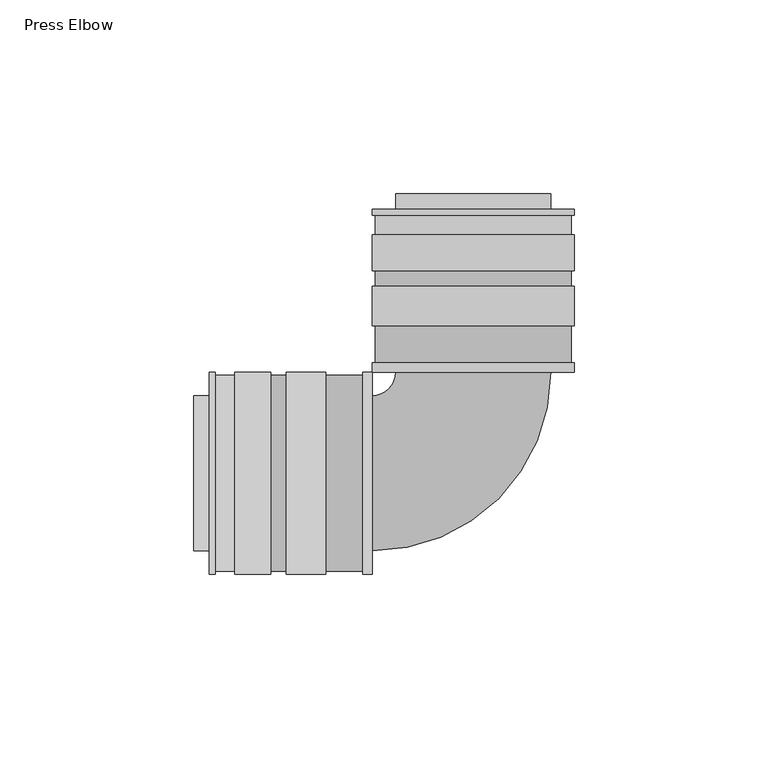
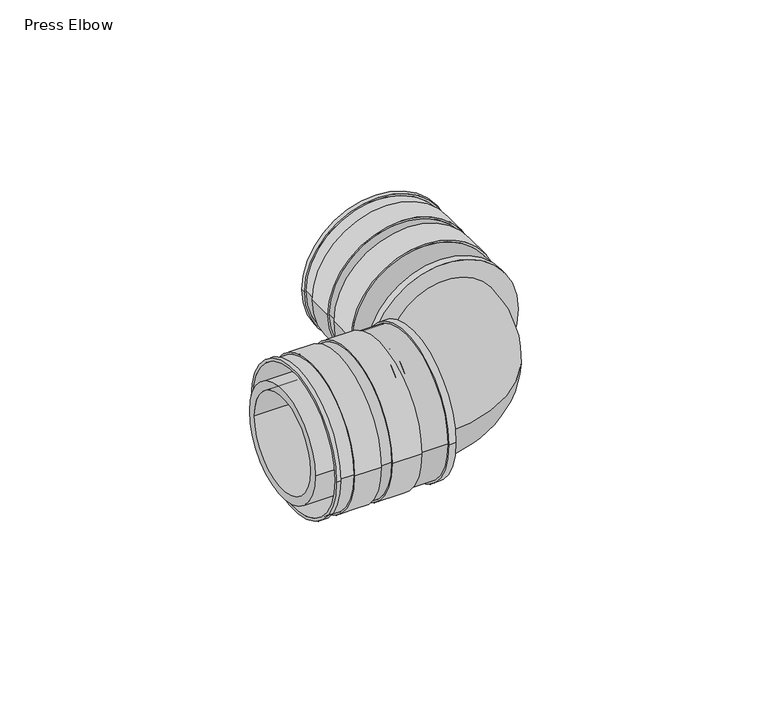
"""IFC4 building model written with IfcOpenShell, lengths in millimetres: pipe fitting geometry, Press Elbow : Superpipe Press Elbow."""

from ifc_helpers import new_model, si_unit, point, frame, origin, origin_2d, place, context, project, spatial, polyline, circle_curve, ellipse_curve, trimmed, segment, composite_curve, outline, extrude, source, transform, mapped, element, save
from ifc_brep_helpers import plane_surface, cylinder_surface, revolved_surface, advanced_brep


def press_elbow_9b0d0ad5(model_context):
    return source(origin(), model_context, "Body", "SolidModel", [
        advanced_brep(
        [(-25.3, 28.5, 0.0), (25.3, 28.5, 0.0), (25.0, 28.5, 0.0), (-25.0, 28.5, 0.0), (26.0, 68.0, 0.0), (-26.0, 68.0, 0.0), (25.0, 68.0, 0.0), (-25.0, 68.0, 0.0), (26.0, 66.5, 0.0), (-26.0, 66.5, 0.0), (26.0, 38.0, 0.0), (-26.0, 38.0, 0.0), (-26.0, 48.25, 0.0), (26.0, 48.25, 0.0), (26.0, 52.25, 0.0), (-26.0, 52.25, 0.0), (-26.0, 61.5, 0.0), (26.0, 61.5, 0.0), (25.3, 38.0, 0.0), (-25.3, 38.0, 0.0), (25.3, 48.25, 0.0), (-25.3, 48.25, 0.0), (25.3, 52.25, 0.0), (-25.3, 52.25, 0.0), (-25.3, 66.5, 0.0), (25.3, 66.5, 0.0), (-25.3, 61.5, 0.0), (25.3, 61.5, 0.0)],
        [
            (0, 1, circle_curve(frame((0.0, 28.5, 0.0), z_axis=(0.0, -1.0, 0.0), x_axis=(-1.0, 0.0, 0.0)), 25.3)),
            (1, 0, circle_curve(frame((0.0, 28.5, 0.0), z_axis=(0.0, -1.0, 0.0), x_axis=(-1.0, 0.0, 0.0)), 25.3)),
            (2, 3, circle_curve(frame((0.0, 28.5, 0.0), z_axis=(0.0, 1.0, 0.0), x_axis=(-1.0, 0.0, 0.0)), 25.0)),
            (3, 2, circle_curve(frame((0.0, 28.5, 0.0), z_axis=(0.0, 1.0, 0.0), x_axis=(-1.0, 0.0, 0.0)), 25.0)),
            (4, 5, circle_curve(frame((0.0, 68.0, 0.0), z_axis=(0.0, 1.0, 0.0), x_axis=(-1.0, 0.0, 0.0)), 26.0)),
            (5, 4, circle_curve(frame((0.0, 68.0, 0.0), z_axis=(0.0, 1.0, 0.0), x_axis=(-1.0, 0.0, 0.0)), 26.0)),
            (6, 7, circle_curve(frame((0.0, 68.0, 0.0), z_axis=(0.0, -1.0, 0.0), x_axis=(-1.0, 0.0, 0.0)), 25.0)),
            (7, 6, circle_curve(frame((0.0, 68.0, 0.0), z_axis=(0.0, -1.0, 0.0), x_axis=(-1.0, 0.0, 0.0)), 25.0)),
            (4, 8),
            (8, 9, circle_curve(frame((0.0, 66.5, 0.0), z_axis=(0.0, 1.0, 0.0), x_axis=(-1.0, 0.0, 0.0)), 26.0)),
            (9, 5),
            (10, 11, circle_curve(frame((0.0, 38.0, 0.0), z_axis=(0.0, 1.0, 0.0), x_axis=(-1.0, 0.0, 0.0)), 26.0)),
            (11, 12),
            (12, 13, circle_curve(frame((0.0, 48.25, 0.0), z_axis=(0.0, -1.0, 0.0), x_axis=(-1.0, 0.0, 0.0)), 26.0)),
            (13, 10),
            (14, 15, circle_curve(frame((0.0, 52.25, 0.0), z_axis=(0.0, 1.0, 0.0), x_axis=(-1.0, 0.0, 0.0)), 26.0)),
            (15, 16),
            (16, 17, circle_curve(frame((0.0, 61.5, 0.0), z_axis=(0.0, -1.0, 0.0), x_axis=(-1.0, 0.0, 0.0)), 26.0)),
            (17, 14),
            (9, 8, circle_curve(frame((0.0, 66.5, 0.0), z_axis=(0.0, 1.0, 0.0), x_axis=(-1.0, 0.0, 0.0)), 26.0)),
            (11, 10, circle_curve(frame((0.0, 38.0, 0.0), z_axis=(0.0, 1.0, 0.0), x_axis=(-1.0, 0.0, 0.0)), 26.0)),
            (13, 12, circle_curve(frame((0.0, 48.25, 0.0), z_axis=(0.0, -1.0, 0.0), x_axis=(-1.0, 0.0, 0.0)), 26.0)),
            (15, 14, circle_curve(frame((0.0, 52.25, 0.0), z_axis=(0.0, 1.0, 0.0), x_axis=(-1.0, 0.0, 0.0)), 26.0)),
            (17, 16, circle_curve(frame((0.0, 61.5, 0.0), z_axis=(0.0, -1.0, 0.0), x_axis=(-1.0, 0.0, 0.0)), 26.0)),
            (3, 7),
            (6, 2),
            (18, 19, circle_curve(frame((0.0, 38.0, 0.0), z_axis=(0.0, 1.0, 0.0), x_axis=(-1.0, 0.0, 0.0)), 25.3)),
            (19, 18, circle_curve(frame((0.0, 38.0, 0.0), z_axis=(0.0, 1.0, 0.0), x_axis=(-1.0, 0.0, 0.0)), 25.3)),
            (18, 1),
            (0, 19),
            (20, 21, circle_curve(frame((0.0, 48.25, 0.0), z_axis=(0.0, -1.0, 0.0), x_axis=(-1.0, 0.0, 0.0)), 25.3)),
            (21, 20, circle_curve(frame((0.0, 48.25, 0.0), z_axis=(0.0, -1.0, 0.0), x_axis=(-1.0, 0.0, 0.0)), 25.3)),
            (22, 23, circle_curve(frame((0.0, 52.25, 0.0), z_axis=(0.0, 1.0, 0.0), x_axis=(-1.0, 0.0, 0.0)), 25.3)),
            (23, 22, circle_curve(frame((0.0, 52.25, 0.0), z_axis=(0.0, 1.0, 0.0), x_axis=(-1.0, 0.0, 0.0)), 25.3)),
            (21, 23),
            (22, 20),
            (24, 25, circle_curve(frame((0.0, 66.5, 0.0), z_axis=(0.0, 1.0, 0.0), x_axis=(1.0, 0.0, 0.0)), 25.3)),
            (25, 24, circle_curve(frame((0.0, 66.5, 0.0), z_axis=(0.0, 1.0, 0.0), x_axis=(1.0, 0.0, 0.0)), 25.3)),
            (26, 27, circle_curve(frame((0.0, 61.5, 0.0), z_axis=(0.0, -1.0, 0.0), x_axis=(1.0, 0.0, 0.0)), 25.3)),
            (27, 26, circle_curve(frame((0.0, 61.5, 0.0), z_axis=(0.0, -1.0, 0.0), x_axis=(1.0, 0.0, 0.0)), 25.3)),
            (25, 27),
            (26, 24),
        ],
        [
            plane_surface(frame((0.0, 28.5, 0.0), z_axis=(0.0, -1.0, 0.0), x_axis=(0.0, 0.0, 1.0))),
            plane_surface(frame((0.0, 68.0, 0.0), z_axis=(0.0, 1.0, 0.0), x_axis=(0.0, 0.0, 1.0))),
            cylinder_surface(frame((0.0, 28.5, 0.0), z_axis=(0.0, -1.0, 0.0), x_axis=(-1.0, 0.0, 0.0)), 26.0),
            revolved_surface(polyline([(-25.0, 68.0, 0.0), (-25.0, 28.5, 0.0)]), (0.0, 28.5, 0.0), (0.0, 1.0, 0.0)),
            plane_surface(frame((0.0, 38.0, 0.0), z_axis=(0.0, -1.0, 0.0), x_axis=(0.0, 0.0, 1.0))),
            cylinder_surface(frame((0.0, 28.5, 0.0), z_axis=(0.0, 1.0, 0.0), x_axis=(-1.0, 0.0, 0.0)), 25.3),
            plane_surface(frame((0.0, 48.25, 0.0), z_axis=(0.0, 1.0, 0.0), x_axis=(0.0, 0.0, 1.0))),
            plane_surface(frame((0.0, 52.25, 0.0), z_axis=(0.0, -1.0, 0.0), x_axis=(0.0, 0.0, 1.0))),
            cylinder_surface(frame((0.0, 48.25, 0.0), z_axis=(0.0, 1.0, 0.0), x_axis=(-1.0, 0.0, 0.0)), 25.3),
            plane_surface(frame((0.0, 66.5, 0.0), z_axis=(0.0, -1.0, 0.0), x_axis=(0.0, 0.0, 1.0))),
            plane_surface(frame((0.0, 61.5, 0.0), z_axis=(0.0, 1.0, 0.0), x_axis=(0.0, 0.0, 1.0))),
            cylinder_surface(frame((0.0, 66.5, 0.0), z_axis=(0.0, -1.0, 0.0), x_axis=(1.0, 0.0, 0.0)), 25.3),
        ],
        [
            (0, [[1, 2], [3, 4]]),
            (1, [[5, 6], [7, 8]]),
            (2, [[-5, 9, 10, 11]]),
            (2, [[12, 13, 14, 15]]),
            (2, [[16, 17, 18, 19]]),
            (2, [[-6, -11, 20, -9]]),
            (2, [[21, -15, 22, -13]]),
            (2, [[23, -19, 24, -17]]),
            (3, [[-4, 25, -7, 26]]),
            (3, [[-3, -26, -8, -25]]),
            (4, [[-12, -21], [27, 28]]),
            (5, [[-27, 29, -1, 30]]),
            (5, [[-28, -30, -2, -29]]),
            (6, [[-14, -22], [31, 32]]),
            (7, [[-16, -23], [33, 34]]),
            (8, [[-32, 35, -33, 36]]),
            (8, [[-31, -36, -34, -35]]),
            (9, [[-10, -20], [37, 38]]),
            (10, [[-18, -24], [39, 40]]),
            (11, [[-38, 41, -39, 42]]),
            (11, [[-37, -42, -40, -41]]),
        ],
    ),
        advanced_brep(
        [(-28.5, -25.3, 0.0), (-28.5, 25.3, 0.0), (-28.5, 25.0, 0.0), (-28.5, -25.0, 0.0), (-68.0, 26.0, 0.0), (-68.0, -26.0, 0.0), (-68.0, 25.0, 0.0), (-68.0, -25.0, 0.0), (-66.5, 26.0, 0.0), (-66.5, -26.0, 0.0), (-48.25, -26.0, 0.0), (-48.25, 26.0, 0.0), (-38.0, 26.0, 0.0), (-38.0, -26.0, 0.0), (-52.25, 26.0, 0.0), (-52.25, -26.0, 0.0), (-61.5, -26.0, 0.0), (-61.5, 26.0, 0.0), (-48.25, 25.3, 0.0), (-48.25, -25.3, 0.0), (-52.25, 25.3, 0.0), (-52.25, -25.3, 0.0), (-66.5, -25.3, 0.0), (-66.5, 25.3, 0.0), (-61.5, -25.3, 0.0), (-61.5, 25.3, 0.0), (-38.0, 25.3, 0.0), (-38.0, -25.3, 0.0)],
        [
            (0, 1, circle_curve(frame((-28.5, 0.0, 0.0), z_axis=(1.0, 0.0, 0.0), x_axis=(0.0, -1.0, 0.0)), 25.3)),
            (1, 0, circle_curve(frame((-28.5, 0.0, 0.0), z_axis=(1.0, 0.0, 0.0), x_axis=(0.0, -1.0, 0.0)), 25.3)),
            (2, 3, circle_curve(frame((-28.5, 0.0, 0.0), z_axis=(-1.0, 0.0, 0.0), x_axis=(0.0, -1.0, 0.0)), 25.0)),
            (3, 2, circle_curve(frame((-28.5, 0.0, 0.0), z_axis=(-1.0, 0.0, 0.0), x_axis=(0.0, -1.0, 0.0)), 25.0)),
            (4, 5, circle_curve(frame((-68.0, 0.0, 0.0), z_axis=(-1.0, 0.0, 0.0), x_axis=(0.0, -1.0, 0.0)), 26.0)),
            (5, 4, circle_curve(frame((-68.0, 0.0, 0.0), z_axis=(-1.0, 0.0, 0.0), x_axis=(0.0, -1.0, 0.0)), 26.0)),
            (6, 7, circle_curve(frame((-68.0, 0.0, 0.0), z_axis=(1.0, 0.0, 0.0), x_axis=(0.0, -1.0, 0.0)), 25.0)),
            (7, 6, circle_curve(frame((-68.0, 0.0, 0.0), z_axis=(1.0, 0.0, 0.0), x_axis=(0.0, -1.0, 0.0)), 25.0)),
            (3, 7),
            (6, 2),
            (4, 8),
            (8, 9, circle_curve(frame((-66.5, 0.0, 0.0), z_axis=(-1.0, 0.0, 0.0), x_axis=(0.0, -1.0, 0.0)), 26.0)),
            (9, 5),
            (10, 11, circle_curve(frame((-48.25, 0.0, 0.0), z_axis=(1.0, 0.0, 0.0), x_axis=(0.0, -1.0, 0.0)), 26.0)),
            (11, 12),
            (12, 13, circle_curve(frame((-38.0, 0.0, 0.0), z_axis=(-1.0, 0.0, 0.0), x_axis=(0.0, -1.0, 0.0)), 26.0)),
            (13, 10),
            (14, 15, circle_curve(frame((-52.25, 0.0, 0.0), z_axis=(-1.0, 0.0, 0.0), x_axis=(0.0, -1.0, 0.0)), 26.0)),
            (15, 16),
            (16, 17, circle_curve(frame((-61.5, 0.0, 0.0), z_axis=(1.0, 0.0, 0.0), x_axis=(0.0, -1.0, 0.0)), 26.0)),
            (17, 14),
            (9, 8, circle_curve(frame((-66.5, 0.0, 0.0), z_axis=(-1.0, 0.0, 0.0), x_axis=(0.0, -1.0, 0.0)), 26.0)),
            (11, 10, circle_curve(frame((-48.25, 0.0, 0.0), z_axis=(1.0, 0.0, 0.0), x_axis=(0.0, -1.0, 0.0)), 26.0)),
            (13, 12, circle_curve(frame((-38.0, 0.0, 0.0), z_axis=(-1.0, 0.0, 0.0), x_axis=(0.0, -1.0, 0.0)), 26.0)),
            (15, 14, circle_curve(frame((-52.25, 0.0, 0.0), z_axis=(-1.0, 0.0, 0.0), x_axis=(0.0, -1.0, 0.0)), 26.0)),
            (17, 16, circle_curve(frame((-61.5, 0.0, 0.0), z_axis=(1.0, 0.0, 0.0), x_axis=(0.0, -1.0, 0.0)), 26.0)),
            (18, 19, circle_curve(frame((-48.25, 0.0, 0.0), z_axis=(1.0, 0.0, 0.0), x_axis=(0.0, -1.0, 0.0)), 25.3)),
            (19, 18, circle_curve(frame((-48.25, 0.0, 0.0), z_axis=(1.0, 0.0, 0.0), x_axis=(0.0, -1.0, 0.0)), 25.3)),
            (20, 21, circle_curve(frame((-52.25, 0.0, 0.0), z_axis=(-1.0, 0.0, 0.0), x_axis=(0.0, -1.0, 0.0)), 25.3)),
            (21, 20, circle_curve(frame((-52.25, 0.0, 0.0), z_axis=(-1.0, 0.0, 0.0), x_axis=(0.0, -1.0, 0.0)), 25.3)),
            (19, 21),
            (20, 18),
            (22, 23, circle_curve(frame((-66.5, 0.0, 0.0), z_axis=(-1.0, 0.0, 0.0), x_axis=(0.0, 1.0, 0.0)), 25.3)),
            (23, 22, circle_curve(frame((-66.5, 0.0, 0.0), z_axis=(-1.0, 0.0, 0.0), x_axis=(0.0, 1.0, 0.0)), 25.3)),
            (24, 25, circle_curve(frame((-61.5, 0.0, 0.0), z_axis=(1.0, 0.0, 0.0), x_axis=(0.0, 1.0, 0.0)), 25.3)),
            (25, 24, circle_curve(frame((-61.5, 0.0, 0.0), z_axis=(1.0, 0.0, 0.0), x_axis=(0.0, 1.0, 0.0)), 25.3)),
            (23, 25),
            (24, 22),
            (26, 27, circle_curve(frame((-38.0, 0.0, 0.0), z_axis=(-1.0, 0.0, 0.0), x_axis=(0.0, -1.0, 0.0)), 25.3)),
            (27, 26, circle_curve(frame((-38.0, 0.0, 0.0), z_axis=(-1.0, 0.0, 0.0), x_axis=(0.0, -1.0, 0.0)), 25.3)),
            (26, 1),
            (0, 27),
        ],
        [
            plane_surface(frame((-28.5, 0.0, 0.0), z_axis=(1.0, 0.0, 0.0), x_axis=(0.0, 0.0, 1.0))),
            plane_surface(frame((-68.0, 0.0, 0.0), z_axis=(-1.0, 0.0, 0.0), x_axis=(0.0, 0.0, 1.0))),
            revolved_surface(polyline([(-68.0, -25.0, 0.0), (-28.5, -25.0, 0.0)]), (-28.5, 0.0, 0.0), (-1.0, 0.0, 0.0)),
            cylinder_surface(frame((-28.5, 0.0, 0.0), z_axis=(1.0, 0.0, 0.0), x_axis=(0.0, -1.0, 0.0)), 26.0),
            plane_surface(frame((-48.25, 0.0, 0.0), z_axis=(-1.0, 0.0, 0.0), x_axis=(0.0, 0.0, 1.0))),
            plane_surface(frame((-52.25, 0.0, 0.0), z_axis=(1.0, 0.0, 0.0), x_axis=(0.0, 0.0, 1.0))),
            cylinder_surface(frame((-48.25, 0.0, 0.0), z_axis=(-1.0, 0.0, 0.0), x_axis=(0.0, -1.0, 0.0)), 25.3),
            plane_surface(frame((-66.5, 0.0, 0.0), z_axis=(1.0, 0.0, 0.0), x_axis=(0.0, 0.0, 1.0))),
            plane_surface(frame((-61.5, 0.0, 0.0), z_axis=(-1.0, 0.0, 0.0), x_axis=(0.0, 0.0, 1.0))),
            cylinder_surface(frame((-66.5, 0.0, 0.0), z_axis=(1.0, 0.0, 0.0), x_axis=(0.0, 1.0, 0.0)), 25.3),
            plane_surface(frame((-38.0, 0.0, 0.0), z_axis=(1.0, 0.0, 0.0), x_axis=(0.0, 0.0, 1.0))),
            cylinder_surface(frame((-28.5, 0.0, 0.0), z_axis=(-1.0, 0.0, 0.0), x_axis=(0.0, -1.0, 0.0)), 25.3),
        ],
        [
            (0, [[1, 2], [3, 4]]),
            (1, [[5, 6], [7, 8]]),
            (2, [[-4, 9, -7, 10]]),
            (2, [[-3, -10, -8, -9]]),
            (3, [[-5, 11, 12, 13]]),
            (3, [[14, 15, 16, 17]]),
            (3, [[18, 19, 20, 21]]),
            (3, [[-6, -13, 22, -11]]),
            (3, [[23, -17, 24, -15]]),
            (3, [[25, -21, 26, -19]]),
            (4, [[-14, -23], [27, 28]]),
            (5, [[-18, -25], [29, 30]]),
            (6, [[-28, 31, -29, 32]]),
            (6, [[-27, -32, -30, -31]]),
            (7, [[-12, -22], [33, 34]]),
            (8, [[-20, -26], [35, 36]]),
            (9, [[-34, 37, -35, 38]]),
            (9, [[-33, -38, -36, -37]]),
            (10, [[-16, -24], [39, 40]]),
            (11, [[-39, 41, -1, 42]]),
            (11, [[-40, -42, -2, -41]]),
        ],
    ),
        extrude(outline(composite_curve([segment(trimmed(circle_curve(origin_2d(), 20.0), [point((0.0, 20.0))], [point((0.0, -20.0))], False, "CARTESIAN"), True, "CONTINUOUS"), segment(trimmed(circle_curve(origin_2d(), 20.0), [point((0.0, -20.0))], [point((0.0, 20.0))], False, "CARTESIAN"), True, "CONTINUOUS")], self_intersect=False), holes=[composite_curve([segment(trimmed(circle_curve(origin_2d(), 17.0), [point((0.0, 17.0))], [point((0.0, -17.0))], True, "CARTESIAN"), True, "CONTINUOUS"), segment(trimmed(circle_curve(origin_2d(), 17.0), [point((0.0, -17.0))], [point((0.0, 17.0))], True, "CARTESIAN"), True, "CONTINUOUS")], self_intersect=False)]), frame((0.0, 28.5, 0.0), z_axis=(0.0, 1.0, 0.0), x_axis=(0.0, 0.0, 1.0)), (0.0, 0.0, 1.0), 43.5),
        extrude(outline(composite_curve([segment(trimmed(circle_curve(origin_2d(), 26.0), [point((0.0, 26.0))], [point((0.0, -26.0))], False, "CARTESIAN"), True, "CONTINUOUS"), segment(trimmed(circle_curve(origin_2d(), 26.0), [point((0.0, -26.0))], [point((0.0, 26.0))], False, "CARTESIAN"), True, "CONTINUOUS")], self_intersect=False), holes=[composite_curve([segment(trimmed(circle_curve(origin_2d(), 17.0), [point((0.0, 17.0))], [point((0.0, -17.0))], True, "CARTESIAN"), True, "CONTINUOUS"), segment(trimmed(circle_curve(origin_2d(), 17.0), [point((0.0, -17.0))], [point((0.0, 17.0))], True, "CARTESIAN"), True, "CONTINUOUS")], self_intersect=False)]), frame((0.0, 26.0, 0.0), z_axis=(0.0, 1.0, 0.0), x_axis=(0.0, 0.0, 1.0)), (0.0, 0.0, 1.0), 2.5),
        extrude(outline(composite_curve([segment(trimmed(circle_curve(origin_2d(), 26.0), [point((26.0, 0.0))], [point((-26.0, 0.0))], False, "CARTESIAN"), True, "CONTINUOUS"), segment(trimmed(circle_curve(origin_2d(), 26.0), [point((-26.0, 0.0))], [point((26.0, 0.0))], False, "CARTESIAN"), True, "CONTINUOUS")], self_intersect=False), holes=[composite_curve([segment(trimmed(circle_curve(origin_2d(), 17.0), [point((17.0, 0.0))], [point((-17.0, 0.0))], True, "CARTESIAN"), True, "CONTINUOUS"), segment(trimmed(circle_curve(origin_2d(), 17.0), [point((-17.0, 0.0))], [point((17.0, 0.0))], True, "CARTESIAN"), True, "CONTINUOUS")], self_intersect=False)]), frame((-28.5, 0.0, 0.0), z_axis=(1.0, 0.0, 0.0), x_axis=(0.0, 1.0, 0.0)), (0.0, 0.0, 1.0), 2.5),
        extrude(outline(composite_curve([segment(trimmed(circle_curve(origin_2d(), 20.0), [point((20.0, 0.0))], [point((-20.0, 0.0))], False, "CARTESIAN"), True, "CONTINUOUS"), segment(trimmed(circle_curve(origin_2d(), 20.0), [point((-20.0, 0.0))], [point((20.0, 0.0))], False, "CARTESIAN"), True, "CONTINUOUS")], self_intersect=False), holes=[composite_curve([segment(trimmed(circle_curve(origin_2d(), 17.0), [point((17.0, 0.0))], [point((-17.0, 0.0))], True, "CARTESIAN"), True, "CONTINUOUS"), segment(trimmed(circle_curve(origin_2d(), 17.0), [point((-17.0, 0.0))], [point((17.0, 0.0))], True, "CARTESIAN"), True, "CONTINUOUS")], self_intersect=False)]), frame((-72.0, 0.0, 0.0), z_axis=(1.0, 0.0, 0.0), x_axis=(0.0, 1.0, 0.0)), (0.0, 0.0, 1.0), 43.5),
        advanced_brep(
        [(-26.0, -17.0, 0.0), (-26.0, 17.0, 0.0), (17.0, 26.0, 0.0), (-17.0, 26.0, 0.0)],
        [
            (0, 1, circle_curve(frame((-26.0, 0.0, 0.0), z_axis=(-1.0, 0.0, 0.0), x_axis=(0.0, 1.0, 0.0)), 17.0)),
            (1, 0, circle_curve(frame((-26.0, 0.0, 0.0), z_axis=(-1.0, 0.0, 0.0), x_axis=(0.0, 1.0, 0.0)), 17.0)),
            (2, 3, circle_curve(frame((0.0, 26.0, 0.0), z_axis=(0.0, 1.0, 0.0), x_axis=(-1.0, 0.0, 0.0)), 17.0)),
            (3, 2, circle_curve(frame((0.0, 26.0, 0.0), z_axis=(0.0, 1.0, 0.0), x_axis=(-1.0, 0.0, 0.0)), 17.0)),
            (3, 1, circle_curve(frame((-26.0, 26.0, 0.0), z_axis=(0.0, 0.0, -1.0), x_axis=(0.0, -1.0, 0.0)), 9.0)),
            (0, 2, circle_curve(frame((-26.0, 26.0, 0.0), z_axis=(0.0, 0.0, 1.0), x_axis=(0.0, -1.0, 0.0)), 43.0)),
        ],
        [
            plane_surface(frame((-26.0, 0.0, 0.0), z_axis=(-1.0, 0.0, 0.0), x_axis=(0.0, 0.0, 1.0))),
            plane_surface(frame((0.0, 26.0, 0.0), z_axis=(0.0, 1.0, 0.0), x_axis=(0.0, 0.0, 1.0))),
            revolved_surface(trimmed(ellipse_curve(frame((-26.0, 0.0, 0.0), z_axis=(-1.0, 0.0, 0.0), x_axis=(0.0, 1.0, 0.0)), 17.0, 17.0), [point((-26.0, -17.0, 0.0))], [point((-26.0, 17.0, 0.0))], True, "CARTESIAN"), (-26.0, 26.0, 0.0), (0.0, 0.0, 1.0)),
            revolved_surface(trimmed(ellipse_curve(frame((-26.0, 0.0, 0.0), z_axis=(-1.0, 0.0, 0.0), x_axis=(0.0, 1.0, 0.0)), 17.0, 17.0), [point((-26.0, 17.0, 0.0))], [point((-26.0, -17.0, 0.0))], True, "CARTESIAN"), (-26.0, 26.0, 0.0), (0.0, 0.0, 1.0)),
        ],
        [
            (0, [[1, 2]]),
            (1, [[3, 4]]),
            (2, [[5, -1, 6, -4]]),
            (3, [[-6, -2, -5, -3]]),
        ],
    ),
        advanced_brep(
        [(-26.0, -20.0, 0.0), (-26.0, 20.0, 0.0), (20.0, 26.0, 0.0), (-20.0, 26.0, 0.0)],
        [
            (0, 1, circle_curve(frame((-26.0, 0.0, 0.0), z_axis=(-1.0, 0.0, 0.0), x_axis=(0.0, 1.0, 0.0)), 20.0)),
            (1, 0, circle_curve(frame((-26.0, 0.0, 0.0), z_axis=(-1.0, 0.0, 0.0), x_axis=(0.0, 1.0, 0.0)), 20.0)),
            (2, 3, circle_curve(frame((0.0, 26.0, 0.0), z_axis=(0.0, 1.0, 0.0), x_axis=(-1.0, 0.0, 0.0)), 20.0)),
            (3, 2, circle_curve(frame((0.0, 26.0, 0.0), z_axis=(0.0, 1.0, 0.0), x_axis=(-1.0, 0.0, 0.0)), 20.0)),
            (3, 1, circle_curve(frame((-26.0, 26.0, 0.0), z_axis=(0.0, 0.0, -1.0), x_axis=(0.0, -1.0, 0.0)), 6.0)),
            (0, 2, circle_curve(frame((-26.0, 26.0, 0.0), z_axis=(0.0, 0.0, 1.0), x_axis=(0.0, -1.0, 0.0)), 46.0)),
        ],
        [
            plane_surface(frame((-26.0, 0.0, 0.0), z_axis=(-1.0, 0.0, 0.0), x_axis=(0.0, 0.0, 1.0))),
            plane_surface(frame((0.0, 26.0, 0.0), z_axis=(0.0, 1.0, 0.0), x_axis=(0.0, 0.0, 1.0))),
            revolved_surface(trimmed(ellipse_curve(frame((-26.0, 0.0, 0.0), z_axis=(-1.0, 0.0, 0.0), x_axis=(0.0, 1.0, 0.0)), 20.0, 20.0), [point((-26.0, -20.0, 0.0))], [point((-26.0, 20.0, 0.0))], True, "CARTESIAN"), (-26.0, 26.0, 0.0), (0.0, 0.0, 1.0)),
            revolved_surface(trimmed(ellipse_curve(frame((-26.0, 0.0, 0.0), z_axis=(-1.0, 0.0, 0.0), x_axis=(0.0, 1.0, 0.0)), 20.0, 20.0), [point((-26.0, 20.0, 0.0))], [point((-26.0, -20.0, 0.0))], True, "CARTESIAN"), (-26.0, 26.0, 0.0), (0.0, 0.0, 1.0)),
        ],
        [
            (0, [[1, 2]]),
            (1, [[3, 4]]),
            (2, [[5, -1, 6, -4]]),
            (3, [[-6, -2, -5, -3]]),
        ],
    ),
    ])


if __name__ == "__main__":
    model = new_model("IFC4")
    model_context = context("Model", 3, world=origin())
    ifc_project = project(units=[si_unit("LENGTHUNIT", "METRE", prefix="MILLI")], contexts=[model_context])
    site = spatial("IfcSite", under=ifc_project)
    building = spatial("IfcBuilding", under=site)
    placement = place(None, origin())
    press_elbow_shape = press_elbow_9b0d0ad5(model_context)
    element("IfcPipeFitting", 1, ObjectType="Press Elbow : Superpipe Press Elbow", at=placement, inside=building, context=model_context, shape_type="MappedRepresentation", body=[
        mapped(press_elbow_shape, transform((0.0, 0.0, 0.0), x_axis=(1.0, 0.0, 0.0), y_axis=(0.0, 1.0, 0.0), z_axis=(0.0, 0.0, 1.0))),
    ])
    save(model, "model.ifc")
